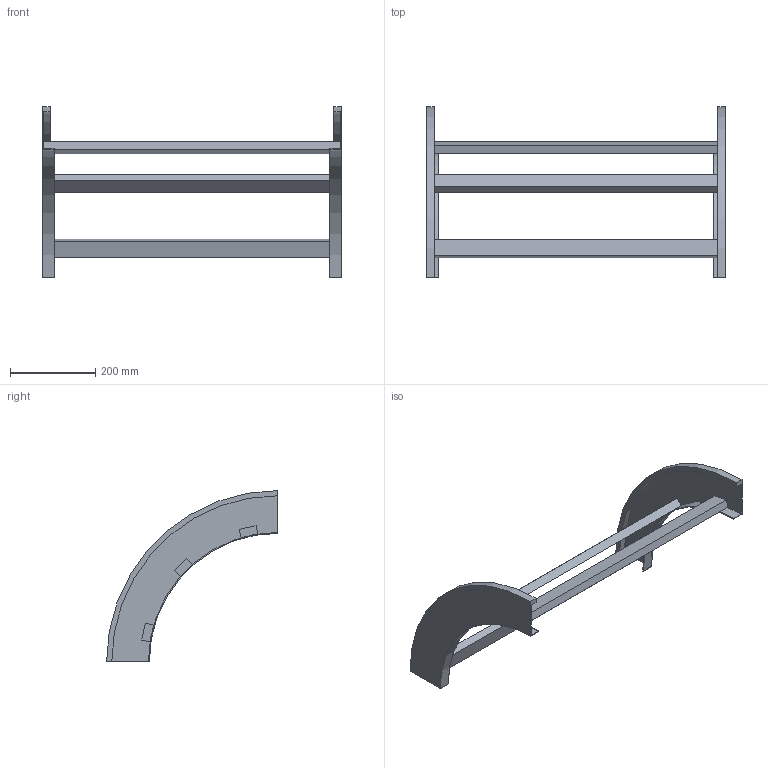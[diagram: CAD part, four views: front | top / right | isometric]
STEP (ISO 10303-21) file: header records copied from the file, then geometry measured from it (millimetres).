
FILE_DESCRIPTION (( 'STEP AP214' ), '1' );
FILE_NAME ('B2_33B3D700.step', '2025-02-21T15:02:39', ( '' ), ( '' ), 'SwSTEP 2.0', 'SolidWorks 2023', '' );
FILE_SCHEMA (( 'AUTOMOTIVE_DESIGN' ));
Length unit declared in the file: millimetre
Products named in the file (3): TRAVERSINO_700; B2_33B3D700; B2_LONGH.DISCESA_90°_H100_R300
Assembly tree (5 placements, depth 2):
  B2_33B3D700
    B2_LONGH.DISCESA_90°_H100_R300  x2
    TRAVERSINO_700  x3
Bounding box: 700 x 400 x 400 mm (x, y, z)
Volume: 2196127.7 mm3; surface area: 570475.9 mm2
Topology: 5 solids, 5 shells, 38 faces, 84 edges, 56 vertices
Faces by surface type: plane 30, cylinder 8
Entity records: 560 total; most frequent: DIRECTION 92, CARTESIAN_POINT 84, ORIENTED_EDGE 72, EDGE_CURVE 36, AXIS2_PLACEMENT_3D 32, LINE 28, VECTOR 28, VERTEX_POINT 24
